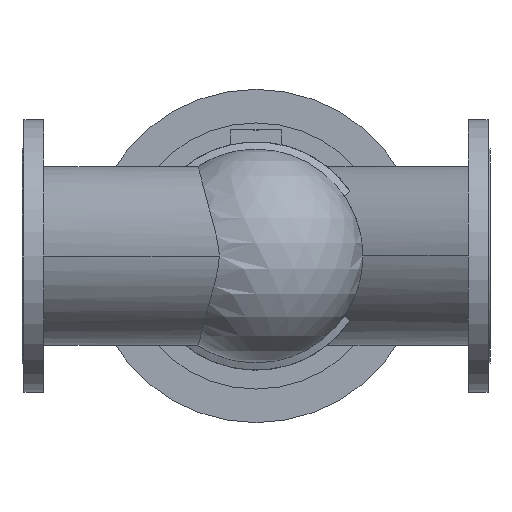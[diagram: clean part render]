
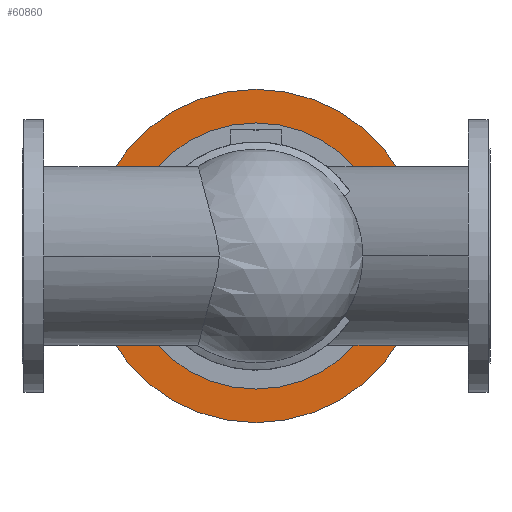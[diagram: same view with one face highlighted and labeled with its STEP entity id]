
A CAD part, front view. The second image highlights one B-rep face of the part: STEP entity #60860.
In plain terms, the highlighted planar face has unit normal (0, -1, 0).
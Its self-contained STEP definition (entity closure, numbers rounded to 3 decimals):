
#59370=CARTESIAN_POINT('',(158.5,828.3,0.));
#59380=VERTEX_POINT('',#59370);
#60470=CARTESIAN_POINT('',(571.5,828.3,0.));
#60480=VERTEX_POINT('',#60470);
#60510=CARTESIAN_POINT('',(365.,828.3,0.));
#60520=DIRECTION('',(0.,1.,0.));
#60530=DIRECTION('',(1.,0.,0.));
#60540=AXIS2_PLACEMENT_3D('',#60510,#60520,#60530);
#60550=CIRCLE('',#60540,206.5);
#60560=EDGE_CURVE('',#60480,#59380,#60550,.T.);
#60610=CARTESIAN_POINT('',(598.25,828.3,0.));
#60620=DIRECTION('',(0.,-1.,0.));
#60630=DIRECTION('',(-1.,0.,0.));
#60640=AXIS2_PLACEMENT_3D('',#60610,#60620,#60630);
#60650=PLANE('',#60640);
#60660=CARTESIAN_POINT('',(365.,828.3,0.));
#60670=DIRECTION('',(0.,1.,0.));
#60680=DIRECTION('',(1.,0.,0.));
#60690=AXIS2_PLACEMENT_3D('',#60660,#60670,#60680);
#60700=CIRCLE('',#60690,260.);
#60710=CARTESIAN_POINT('',(105.,828.3,0.));
#60720=VERTEX_POINT('',#60710);
#60730=CARTESIAN_POINT('',(625.,828.3,0.));
#60740=VERTEX_POINT('',#60730);
#60750=EDGE_CURVE('',#60720,#60740,#60700,.T.);
#60760=ORIENTED_EDGE('',*,*,#60750,.F.);
#60770=EDGE_CURVE('',#60740,#60720,#60700,.T.);
#60780=ORIENTED_EDGE('',*,*,#60770,.F.);
#60790=EDGE_LOOP('',(#60780,#60760));
#60800=FACE_OUTER_BOUND('',#60790,.T.);
#60810=EDGE_CURVE('',#59380,#60480,#60550,.T.);
#60820=ORIENTED_EDGE('',*,*,#60810,.T.);
#60830=ORIENTED_EDGE('',*,*,#60560,.T.);
#60840=EDGE_LOOP('',(#60830,#60820));
#60850=FACE_BOUND('',#60840,.T.);
#60860=ADVANCED_FACE('',(#60800,#60850),#60650,.T.);
